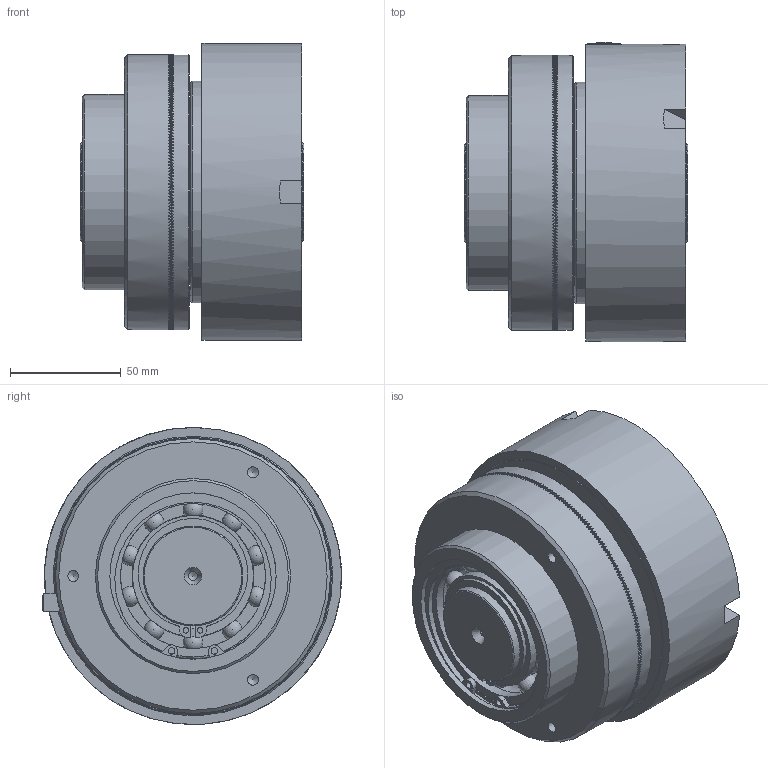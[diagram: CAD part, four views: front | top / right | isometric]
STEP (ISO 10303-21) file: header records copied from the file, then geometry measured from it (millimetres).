
FILE_DESCRIPTION(/* description */ (''),/* implementation_level */ '2;1');
FILE_NAME(/* name */ '\\Srv-tecnico\DATI\UFFICIO TECNICO\ARCHIVIO INVENTOR\DISEGNI\UFFICIO TECNICO\03_Friz_Oleodinamiche e Pneumatiche_Cilindro_Statico\03_20 DPR\03_20_03_01 DPR03\03_20_03_01 DPR03@STEP.stp',/* time_stamp */ '2016-07-14T13:29:56+02:00',/* author */ ('stefano'),/* organization */ (''),/* preprocessor_version */ 'ST-DEVELOPER v16.1',/* originating_system */ 'Autodesk Inventor 2016',/* authorisation */ '');
FILE_SCHEMA (('AUTOMOTIVE_DESIGN { 1 0 10303 214 3 1 1 }'));
Products named in the file (1): 03_20_03_01 DPR03_Substitute_1
Bounding box: 101 x 134.9 x 133.95 mm (x, y, z)
Volume: 885640.4 mm3; surface area: 202891.3 mm2
Topology: 1 solids, 1 shells, 2913 faces, 8875 edges, 5885 vertices
Faces by surface type: plane 2281, cylinder 346, torus 224, sphere 42, cone 20
Full cylindrical faces by diameter (mm): 2.5 x4, 3 x4, 4 x2, 4.917 x3, 5.25 x6, 6 x1, 7 x1, 8.566 x1, 42.5 x2, 45 x4, 54.6 x5, 55 x1, 65 x1, 65.4 x5, 66.5 x1, 67 x2, 74 x1, 75 x4, 76 x1, 76.2 x2, 78 x1, 85 x1, 88 x2, 88.8 x2, 90 x1, 100 x1, 114 x2, 120 x1, 124 x2, 126 x1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
Entity records: 110017 total; most frequent: CARTESIAN_POINT 24780, DIRECTION 19211, ORIENTED_EDGE 17214, EDGE_CURVE 8605, AXIS2_PLACEMENT_3D 8307, VERTEX_POINT 5749, ELLIPSE 3243, EDGE_LOOP 3090
